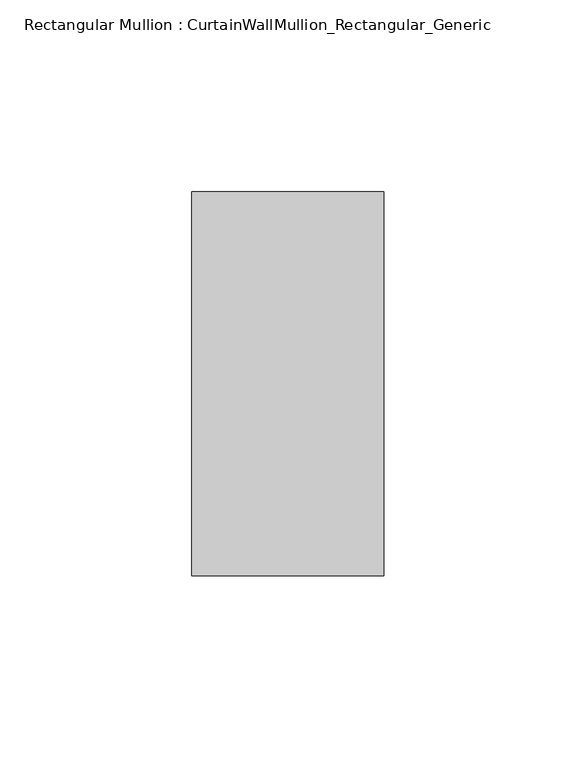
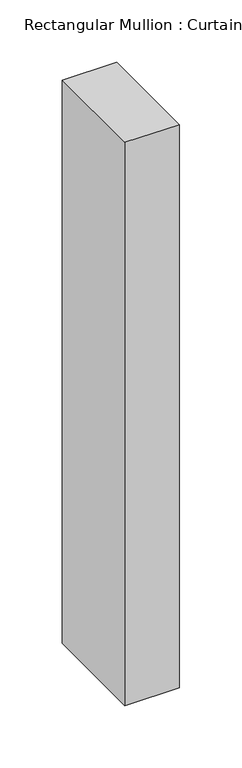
"""IFC4 building model written with IfcOpenShell, lengths in millimetres: member geometry, Rectangular Mullion : CurtainWallMullion_Rectangular_Generic."""

from ifc_helpers import new_model, si_unit, frame, origin, place, context, project, spatial, polyline, outline, extrude, source, transform, mapped, element, save


def rectangular_mullion_curtainwallmullion_rectangular_generic_a50df724(model_context):
    return source(origin(), model_context, "Body", "SweptSolid", [
        extrude(outline(polyline([(0.0, 50.0), (0.0, -50.0), (-50.0, -50.0), (-50.0, 50.0), (0.0, 50.0)])), frame((0.0, 0.0, -550.0), z_axis=(0.0, 0.0, 1.0), x_axis=(1.0, 0.0, 0.0)), (0.0, 0.0, 1.0), 550.0),
    ])


if __name__ == "__main__":
    model = new_model("IFC4")
    model_context = context("Model", 3, world=origin())
    ifc_project = project(units=[si_unit("LENGTHUNIT", "METRE", prefix="MILLI")], contexts=[model_context])
    site = spatial("IfcSite", under=ifc_project)
    building = spatial("IfcBuilding", under=site)
    placement = place(None, origin())
    rectangular_mullion_curtainwallmullion_rectangular_generic_shape = rectangular_mullion_curtainwallmullion_rectangular_generic_a50df724(model_context)
    element("IfcMember", 1, ObjectType="Rectangular Mullion : CurtainWallMullion_Rectangular_Generic", at=placement, inside=building, context=model_context, shape_type="MappedRepresentation", body=[
        mapped(rectangular_mullion_curtainwallmullion_rectangular_generic_shape, transform((0.0, 0.0, 0.0), x_axis=(1.0, 0.0, 0.0), y_axis=(0.0, 1.0, 0.0), z_axis=(0.0, 0.0, 1.0))),
    ])
    save(model, "model.ifc")
